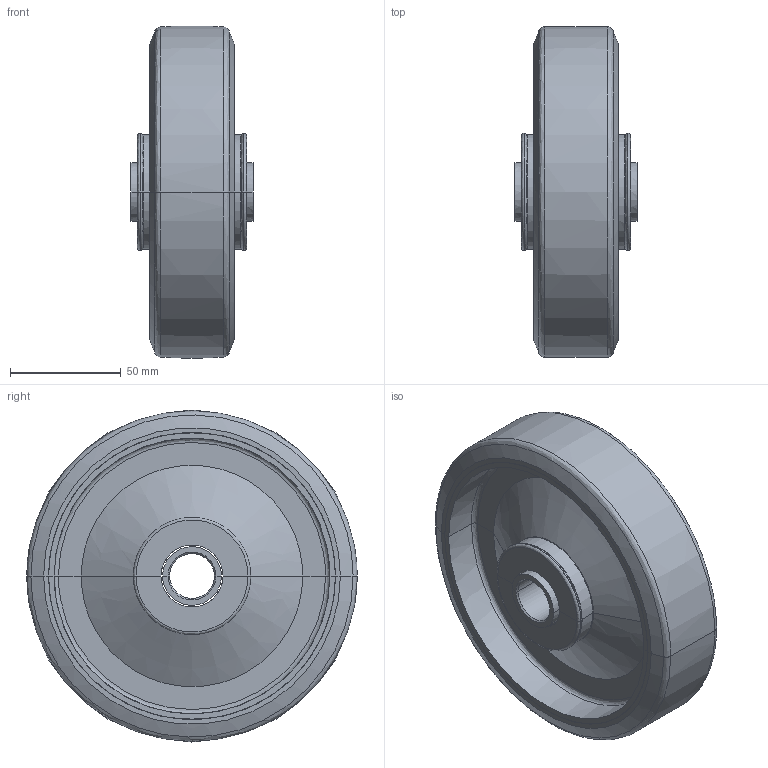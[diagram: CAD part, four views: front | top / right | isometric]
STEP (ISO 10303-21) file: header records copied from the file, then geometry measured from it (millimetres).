
FILE_DESCRIPTION (( 'STEP AP214' ), '1' );
FILE_NAME ('P-150W-STP.STEP', '2022-12-26T01:30:55', ( 'sakai' ), ( 'Hewlett-Packard' ), 'SwSTEP 2.0', 'SolidWorks 2010', '' );
FILE_SCHEMA (( 'AUTOMOTIVE_DESIGN' ));
Length unit declared in the file: millimetre
Products named in the file (6): P150W-10; P150W-15; P150W-20; P-150W-STP; P150W-25; P150W-30
Assembly tree (5 placements, depth 2):
  P-150W-STP
    P150W-20
    P150W-30
    P150W-25
    P150W-15
    P150W-10
Bounding box: 55.1 x 149.22 x 149.91 mm (x, y, z)
Volume: 283864.7 mm3; surface area: 155622 mm2
Topology: 11 solids, 11 shells, 323 faces, 784 edges, 462 vertices
Faces by surface type: bspline 302, plane 21
Entity records: 45227 total; most frequent: CARTESIAN_POINT 36997, ORIENTED_EDGE 1568, EDGE_CURVE 784, B_SPLINE_CURVE_WITH_KNOTS 640, VERTEX_POINT 462, EDGE_LOOP 324, FACE_OUTER_BOUND 323, ADVANCED_FACE 323
